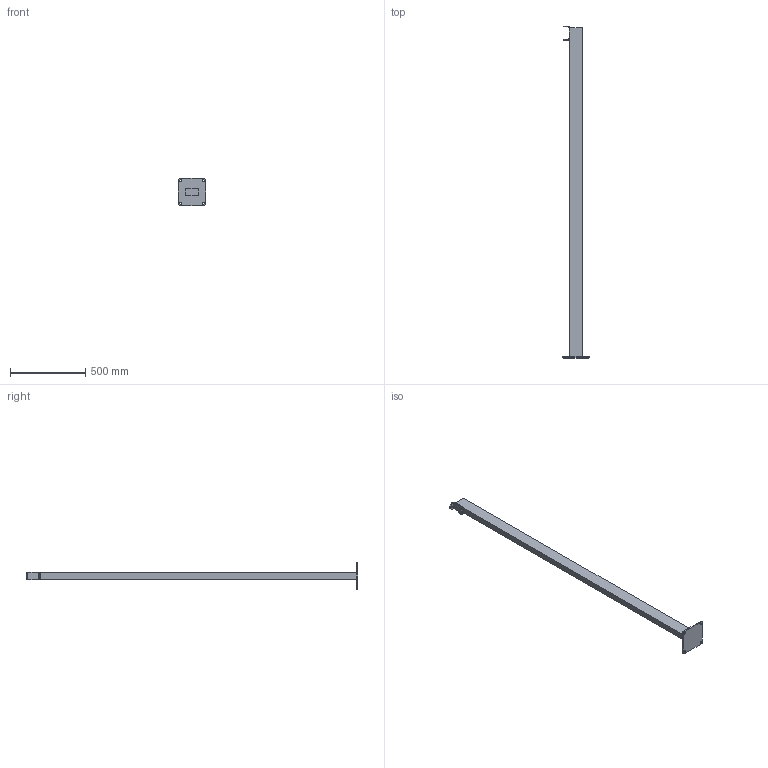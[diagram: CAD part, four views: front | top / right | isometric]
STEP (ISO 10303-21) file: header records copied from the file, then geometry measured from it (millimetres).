
FILE_DESCRIPTION((''),'2;1');
FILE_NAME('PTX2200','2018-10-29T',('Tomas Bellgran'),(''),'CREO PARAMETRIC BY PTC INC, 2016130','CREO PARAMETRIC BY PTC INC, 2016130','');
FILE_SCHEMA(('AUTOMOTIVE_DESIGN { 1 0 10303 214 1 1 1 1 }'));
Length unit declared in the file: millimetre
Products named in the file (1): PTX2200
Bounding box: 180 x 2212 x 180 mm (x, y, z)
Volume: 7309563.3 mm3; surface area: 607250.9 mm2
Topology: 1 solids, 1 shells, 50 faces, 137 edges, 90 vertices
Faces by surface type: cylinder 26, plane 24
Entity records: 1763 total; most frequent: DIRECTION 289, CARTESIAN_POINT 279, ORIENTED_EDGE 274, EDGE_CURVE 137, AXIS2_PLACEMENT_3D 102, VERTEX_POINT 90, VECTOR 85, LINE 85
